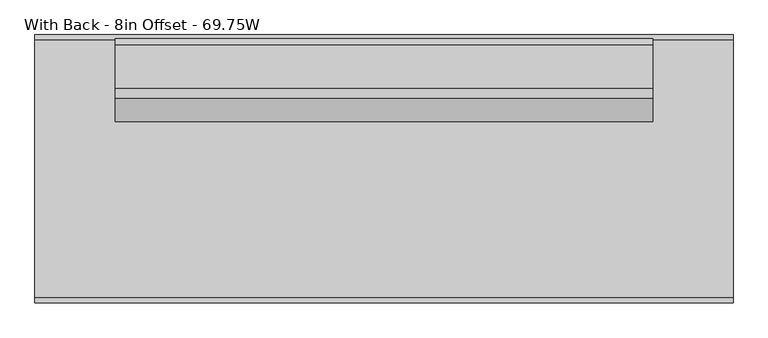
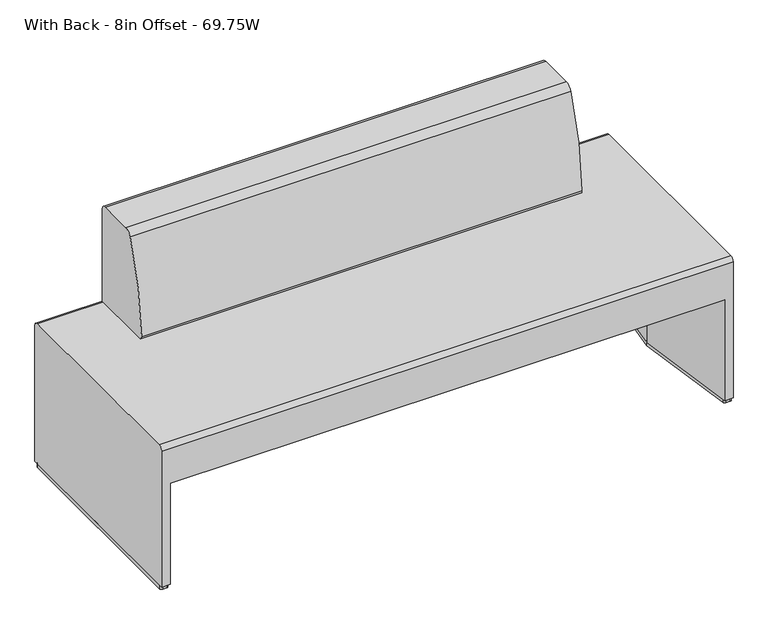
"""IFC4 building model written with IfcOpenShell, lengths in millimetres: furniture geometry, Steelcase Coalesse - Together- Seating - Bench - Straight : With Back - 8in Offset - 69.75W."""

from ifc_helpers import new_model, si_unit, point, frame, frame_2d, origin, origin_with_axes, place, context, project, spatial, polyline, circle_curve, trimmed, segment, composite_curve, outline, extrude, source, transform, mapped, element, save
from ifc_brep_helpers import plane_surface, cylinder_surface, advanced_brep


def with_back_8in_offset_69_75w_f23b3ad1(model_context):
    return source(origin(), model_context, "Body", "SolidModel", [
        advanced_brep(
        [(211.1974085, 12.7, 471.2287949), (211.1974085, 0.0, 458.5287949), (211.1974085, 0.0, 12.7976677), (211.1974085, 680.4865973, 12.7976677), (211.1974085, 680.4865973, 458.5287949), (211.1974085, 667.7865973, 471.2287949), (-1560.4525915, 12.7, 471.2287949), (-1560.4525915, 667.7865973, 471.2287949), (-1560.4525915, 680.4865973, 458.5287949), (-1560.4525915, 680.4865973, 12.7976677), (-1560.4525915, 0.0, 12.7976677), (-1560.4525915, 0.0, 458.5287949), (-1534.2758116, 0.0, 12.7976677), (-1534.2758116, 0.0, 343.3718099), (185.0217103, 0.0, 343.3718099), (185.0206286, 0.0, 12.7976677), (-1489.9443111, 337.8527218, 343.3718099), (-1534.5828635, 680.4865973, 343.3718099), (185.3276806, 680.4865973, 343.3718099), (140.6891281, 337.8527218, 343.3718099), (185.3287419, 680.4865973, 12.7976677), (-1534.5839248, 680.4865973, 12.7976677), (-1489.9443111, 337.8527218, 12.7976677), (140.6891281, 337.8527218, 12.7976677)],
        [
            (0, 1, circle_curve(frame((211.1974085, 12.7, 458.5287949), z_axis=(1.0, 0.0, 0.0), x_axis=(0.0, 1.0, 0.0)), 12.7)),
            (1, 2),
            (2, 3),
            (3, 4),
            (4, 5, circle_curve(frame((211.1974085, 667.7865973, 458.5287949), z_axis=(1.0, 0.0, 0.0), x_axis=(0.0, 1.0, 0.0)), 12.7)),
            (5, 0),
            (6, 7),
            (7, 8, circle_curve(frame((-1560.4525915, 667.7865973, 458.5287949), z_axis=(-1.0, 0.0, 0.0), x_axis=(0.0, 1.0, 0.0)), 12.7)),
            (8, 9),
            (9, 10),
            (10, 11),
            (11, 6, circle_curve(frame((-1560.4525915, 12.7, 458.5287949), z_axis=(-1.0, 0.0, 0.0), x_axis=(0.0, 1.0, 0.0)), 12.7)),
            (0, 6),
            (11, 1),
            (10, 12),
            (12, 13),
            (13, 14),
            (14, 15),
            (15, 2),
            (16, 17),
            (17, 18),
            (18, 19),
            (19, 14),
            (13, 16),
            (3, 20),
            (20, 18),
            (17, 21),
            (21, 9),
            (8, 4),
            (7, 5),
            (22, 12),
            (21, 22),
            (16, 22),
            (23, 20),
            (15, 23),
            (19, 23),
        ],
        [
            plane_surface(frame((211.1974085, 25.4, 458.5287949), z_axis=(1.0, 0.0, 0.0), x_axis=(0.0, 0.0, 1.0))),
            plane_surface(frame((-1560.4525915, 25.4, 458.5287949), z_axis=(-1.0, 0.0, 0.0), x_axis=(0.0, 0.0, -1.0))),
            cylinder_surface(frame((-1560.4525915, 12.7, 458.5287949), z_axis=(1.0, 0.0, 0.0), x_axis=(0.0, 1.0, 0.0)), 12.7),
            plane_surface(frame((211.1974085, 0.0, 458.5287949), z_axis=(0.0, -1.0, 0.0), x_axis=(-1.0, 0.0, 0.0))),
            plane_surface(frame((211.1974085, 0.0, 343.3718099), z_axis=(0.0, 0.0, -1.0), x_axis=(-1.0, 0.0, 0.0))),
            plane_surface(frame((211.1974085, 680.4865973, 343.3718099), z_axis=(0.0, 1.0, 0.0), x_axis=(-1.0, 0.0, 0.0))),
            cylinder_surface(frame((-1560.4525915, 667.7865973, 458.5287949), z_axis=(1.0, 0.0, 0.0), x_axis=(0.0, 1.0, 0.0)), 12.7),
            plane_surface(frame((211.1974085, 667.7865973, 471.2287949), z_axis=(0.0, 0.0, 1.0), x_axis=(-1.0, 0.0, 0.0))),
            plane_surface(frame((-1534.5839248, 680.4947435, 12.7976677), z_axis=(0.0, 0.0, -1.0), x_axis=(0.1291888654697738, -0.9916200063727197, 0.0))),
            plane_surface(frame((-1489.9443111, 337.8527218, 343.3718099), z_axis=(0.9916200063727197, 0.1291888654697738, 0.0), x_axis=(0.0, 0.0, -1.0))),
            plane_surface(frame((-1534.2758116, 0.0082432, 343.3718099), z_axis=(0.9915004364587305, -0.13010336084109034, 0.0), x_axis=(0.0, 0.0, -1.0))),
            plane_surface(frame((140.6891281, 337.8527218, 12.7976677), z_axis=(0.0, 0.0, -1.0), x_axis=(-0.13010336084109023, 0.9915004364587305, 0.0))),
            plane_surface(frame((140.6891281, 337.8527218, 343.3718099), z_axis=(-0.9915004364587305, -0.13010336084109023, 0.0), x_axis=(0.0, 0.0, -1.0))),
            plane_surface(frame((185.3287419, 680.4947435, 343.3718099), z_axis=(-0.9916200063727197, 0.1291888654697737, 0.0), x_axis=(0.0, 0.0, -1.0))),
        ],
        [
            (0, [[1, 2, 3, 4, 5, 6]]),
            (1, [[7, 8, 9, 10, 11, 12]]),
            (2, [[-1, 13, -12, 14]]),
            (3, [[-2, -14, -11, 15, 16, 17, 18, 19]]),
            (4, [[20, 21, 22, 23, -17, 24]]),
            (5, [[-4, 25, 26, -21, 27, 28, -9, 29]]),
            (6, [[-5, -29, -8, 30]]),
            (7, [[-6, -30, -7, -13]]),
            (8, [[31, -15, -10, -28, 32]]),
            (9, [[-32, -27, -20, 33]]),
            (10, [[-31, -33, -24, -16]]),
            (11, [[34, -25, -3, -19, 35]]),
            (12, [[-35, -18, -23, 36]]),
            (13, [[-34, -36, -22, -26]]),
        ],
    ),
        extrude(outline(composite_curve([segment(polyline([(543.9192067, 789.8987331), (655.2964795, 789.8987331)]), True, "CONTINUOUS"), segment(trimmed(circle_curve(frame_2d((655.2964795, 774.6587331)), 15.24), [point((655.2964795, 789.8987331))], [point((670.5364795, 774.6587331))], False, "CARTESIAN"), True, "CONTINUOUS"), segment(polyline([(670.5364795, 774.6587331), (670.5364795, 471.2287949), (472.3170333, 471.2287949)]), True, "CONTINUOUS"), segment(trimmed(circle_curve(frame_2d((472.3170333, 483.9287949)), 12.7), [point((472.3170333, 471.2287949))], [point((459.6227142, 484.3086129))], False, "CARTESIAN"), True, "CONTINUOUS"), segment(trimmed(circle_curve(frame_2d((1300.8534094, 459.138724)), 841.6071565), [point((459.6227142, 484.3086129))], [point((520.3637544, 774.0013994))], False, "CARTESIAN"), True, "CONTINUOUS"), segment(trimmed(circle_curve(frame_2d((543.9192067, 764.4987331)), 25.4), [point((520.3637544, 774.0013994))], [point((543.9192067, 789.8987331))], False, "CARTESIAN"), True, "CONTINUOUS")], self_intersect=False)), frame((-1357.2525915, 0.0, 0.0), z_axis=(1.0, 0.0, 0.0), x_axis=(0.0, 1.0, 0.0)), (0.0, 0.0, 1.0), 1365.25),
        extrude(outline(composite_curve([segment(polyline([(-1490.4003033, 342.7173042), (-1535.4006906, 11.5995062)]), True, "CONTINUOUS"), segment(trimmed(circle_curve(frame_2d((-1541.6928483, 12.4546385)), 6.35), [point((-1535.4006906, 11.5995062))], [point((-1541.6980349, 6.1046406))], False, "CARTESIAN"), True, "CONTINUOUS"), segment(polyline([(-1541.6980349, 6.1046406), (-1554.1552997, 6.1148157)]), True, "CONTINUOUS"), segment(trimmed(circle_curve(frame_2d((-1554.1501131, 12.4648135)), 6.35), [point((-1554.1552997, 6.1148157))], [point((-1560.500111, 12.4700002))], False, "CARTESIAN"), True, "CONTINUOUS"), segment(polyline([(-1560.500111, 12.4700002), (-1559.9645947, 668.1010803)]), True, "CONTINUOUS"), segment(trimmed(circle_curve(frame_2d((-1553.6145969, 668.0958937)), 6.35), [point((-1559.9645947, 668.1010803))], [point((-1553.6094102, 674.4458915))], False, "CARTESIAN"), True, "CONTINUOUS"), segment(polyline([(-1553.6094102, 674.4458915), (-1541.0863928, 674.4356628)]), True, "CONTINUOUS"), segment(trimmed(circle_curve(frame_2d((-1541.0921357, 667.4047129)), 7.0309522), [point((-1541.0863928, 674.4356628))], [point((-1534.1237233, 668.3404046))], False, "CARTESIAN"), True, "CONTINUOUS"), segment(polyline([(-1534.1237233, 668.3404046), (-1490.4003033, 342.7173042)]), True, "CONTINUOUS")], self_intersect=False)), origin_with_axes(), (0.0, 0.0, 1.0), 12.7976677),
        extrude(outline(composite_curve([segment(polyline([(141.1451204, 342.7173042), (184.8685403, 668.3404046)]), True, "CONTINUOUS"), segment(trimmed(circle_curve(frame_2d((191.8369527, 667.4047129)), 7.0309522), [point((184.8685403, 668.3404046))], [point((191.8312098, 674.4356628))], False, "CARTESIAN"), True, "CONTINUOUS"), segment(polyline([(191.8312098, 674.4356628), (204.3542272, 674.4458915)]), True, "CONTINUOUS"), segment(trimmed(circle_curve(frame_2d((204.3594139, 668.0958937)), 6.35), [point((204.3542272, 674.4458915))], [point((210.7094118, 668.1010803))], False, "CARTESIAN"), True, "CONTINUOUS"), segment(polyline([(210.7094118, 668.1010803), (211.244928, 12.4700002)]), True, "CONTINUOUS"), segment(trimmed(circle_curve(frame_2d((204.8949301, 12.4648135)), 6.35), [point((211.244928, 12.4700002))], [point((204.9001168, 6.1148157))], False, "CARTESIAN"), True, "CONTINUOUS"), segment(polyline([(204.9001168, 6.1148157), (192.442852, 6.1046406)]), True, "CONTINUOUS"), segment(trimmed(circle_curve(frame_2d((192.4376653, 12.4546385)), 6.35), [point((192.442852, 6.1046406))], [point((186.1455076, 11.5995062))], False, "CARTESIAN"), True, "CONTINUOUS"), segment(polyline([(186.1455076, 11.5995062), (141.1451204, 342.7173042)]), True, "CONTINUOUS")], self_intersect=False)), origin_with_axes(), (0.0, 0.0, 1.0), 12.7976677),
    ])


if __name__ == "__main__":
    model = new_model("IFC4")
    model_context = context("Model", 3, world=origin())
    ifc_project = project(units=[si_unit("LENGTHUNIT", "METRE", prefix="MILLI")], contexts=[model_context])
    site = spatial("IfcSite", under=ifc_project)
    building = spatial("IfcBuilding", under=site)
    placement = place(None, origin())
    with_back_8in_offset_69_75w_shape = with_back_8in_offset_69_75w_f23b3ad1(model_context)
    element("IfcFurniture", 1, ObjectType="Steelcase Coalesse - Together- Seating - Bench - Straight : With Back - 8in Offset - 69.75W", at=placement, inside=building, context=model_context, shape_type="MappedRepresentation", body=[
        mapped(with_back_8in_offset_69_75w_shape, transform((0.0, 0.0, 0.0), x_axis=(1.0, 0.0, 0.0), y_axis=(0.0, 1.0, 0.0), z_axis=(0.0, 0.0, 1.0))),
    ])
    save(model, "model.ifc")
